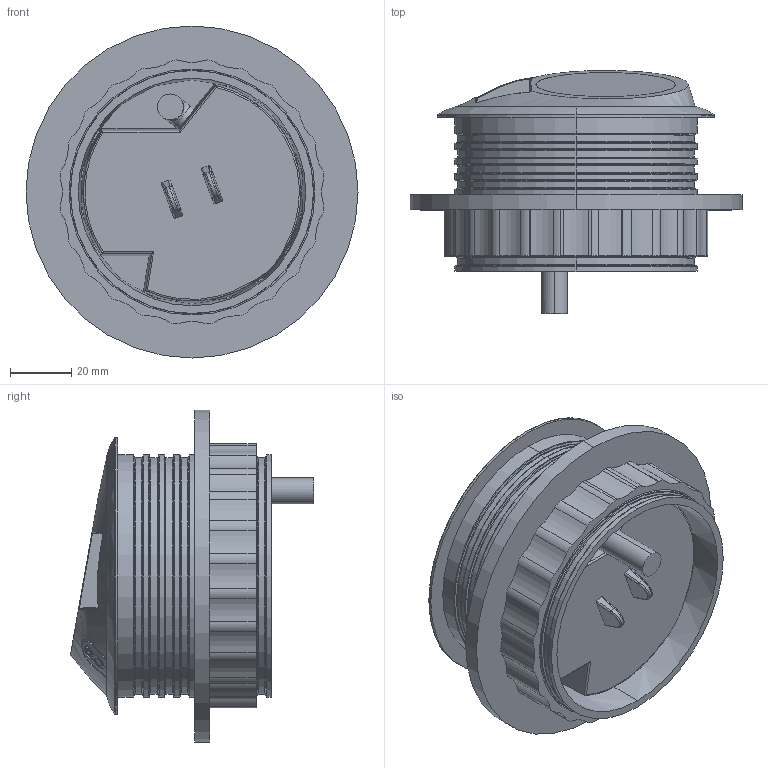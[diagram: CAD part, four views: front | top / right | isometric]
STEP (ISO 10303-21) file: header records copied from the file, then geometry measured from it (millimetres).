
FILE_DESCRIPTION (( 'STEP AP203' ), '1' );
FILE_NAME ('Pixel_TUF_9.STEP', '2023-03-10T14:10:15', ( '' ), ( '' ), 'SwSTEP 2.0', 'SolidWorks 2021', '' );
FILE_SCHEMA (( 'CONFIG_CONTROL_DESIGN' ));
Products named in the file (1): Pixel_TUF_9
Bounding box: 108 x 79.15 x 108 mm (x, y, z)
Volume: 251717.6 mm3; surface area: 76251.5 mm2
Topology: 1 solids, 2 shells, 2217 faces, 6448 edges, 4117 vertices
Faces by surface type: plane 1334, cylinder 564, bspline 232, cone 81, sphere 4, torus 2
Entity records: 80906 total; most frequent: CARTESIAN_POINT 24451, ORIENTED_EDGE 12884, DIRECTION 10269, EDGE_CURVE 6442, VECTOR 4501, LINE 4501, VERTEX_POINT 4114, AXIS2_PLACEMENT_3D 2884
